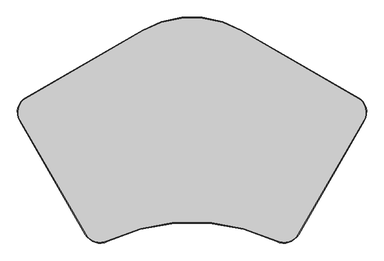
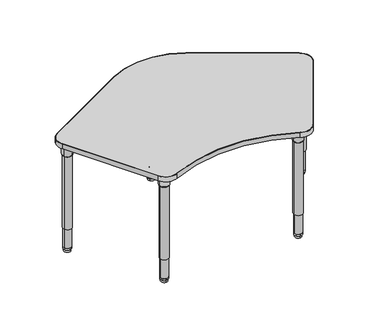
"""IFC4 building model written with IfcOpenShell, lengths in millimetres: furniture geometry, ERG-Mingle-Table-Boomerang : MGLBMR."""

from ifc_helpers import new_model, si_unit, point, frame, frame_2d, origin, place, context, project, spatial, polyline, circle_curve, trimmed, segment, composite_curve, outline, extrude, source, transform, mapped, element, save
from ifc_brep_helpers import plane_surface, cylinder_surface, revolved_surface, advanced_brep


def furniture_91c81256(model_context):
    return source(origin(), model_context, "Body", "SolidModel", [
        advanced_brep(
        [(-398.5896842, -528.6375, 650.5933069), (-428.625, -528.6375, 650.5933069), (-458.6603158, -528.6375, 650.5933069), (-396.481117, -528.6375, 654.3580481), (-460.768883, -528.6375, 654.3580481), (-395.5456351, -528.6375, 707.7631458), (-461.7043649, -528.6375, 707.7631458), (-392.096083, -528.6375, 714.1198315), (-465.153917, -528.6375, 714.1198315), (-392.096083, -528.6375, 726.8198315), (-465.153917, -528.6375, 726.8198315), (-428.625, -528.6375, 726.8198315)],
        [
            (0, 1),
            (1, 2),
            (2, 0, circle_curve(frame((-428.625, -528.6375, 650.5933069), z_axis=(0.0, 0.0, -1.0), x_axis=(-1.0, 0.0, 0.0)), 30.0353158)),
            (0, 2, circle_curve(frame((-428.625, -528.6375, 650.5933069), z_axis=(0.0, 0.0, -1.0), x_axis=(-1.0, 0.0, 0.0)), 30.0353158)),
            (3, 0),
            (2, 4),
            (4, 3, circle_curve(frame((-428.625, -528.6375, 654.3580481), z_axis=(0.0, 0.0, -1.0), x_axis=(-1.0, 0.0, 0.0)), 32.143883)),
            (3, 4, circle_curve(frame((-428.625, -528.6375, 654.3580481), z_axis=(0.0, 0.0, -1.0), x_axis=(-1.0, 0.0, 0.0)), 32.143883)),
            (5, 3),
            (4, 6),
            (6, 5, circle_curve(frame((-428.625, -528.6375, 707.7631458), z_axis=(0.0, 0.0, -1.0), x_axis=(-1.0, 0.0, 0.0)), 33.0793649)),
            (5, 6, circle_curve(frame((-428.625, -528.6375, 707.7631458), z_axis=(0.0, 0.0, -1.0), x_axis=(-1.0, 0.0, 0.0)), 33.0793649)),
            (7, 5),
            (6, 8),
            (8, 7, circle_curve(frame((-428.625, -528.6375, 714.1198315), z_axis=(0.0, 0.0, -1.0), x_axis=(-1.0, 0.0, 0.0)), 36.528917)),
            (7, 8, circle_curve(frame((-428.625, -528.6375, 714.1198315), z_axis=(0.0, 0.0, -1.0), x_axis=(-1.0, 0.0, 0.0)), 36.528917)),
            (9, 7),
            (8, 10),
            (10, 9, circle_curve(frame((-428.625, -528.6375, 726.8198315), z_axis=(0.0, 0.0, -1.0), x_axis=(-1.0, 0.0, 0.0)), 36.528917)),
            (9, 10, circle_curve(frame((-428.625, -528.6375, 726.8198315), z_axis=(0.0, 0.0, -1.0), x_axis=(-1.0, 0.0, 0.0)), 36.528917)),
            (11, 9),
            (10, 11),
        ],
        [
            plane_surface(frame((-428.625, -528.6375, 650.5933069), z_axis=(0.0, 0.0, -1.0), x_axis=(-1.0, 0.0, 0.0))),
            revolved_surface(polyline([(-458.6603158, -528.6375, 650.5933069), (-460.768883, -528.6375, 654.3580481)]), (-428.625, -528.6375, 726.8198315), (0.0, 0.0, 1.0)),
            revolved_surface(polyline([(-460.768883, -528.6375, 654.3580481), (-461.7043649, -528.6375, 707.7631458)]), (-428.625, -528.6375, 726.8198315), (0.0, 0.0, 1.0)),
            revolved_surface(polyline([(-461.7043649, -528.6375, 707.7631458), (-465.153917, -528.6375, 714.1198315)]), (-428.625, -528.6375, 726.8198315), (0.0, 0.0, 1.0)),
            cylinder_surface(frame((-428.625, -528.6375, 726.8198315), z_axis=(0.0, 0.0, 1.0), x_axis=(-1.0, 0.0, 0.0)), 36.528917),
            plane_surface(frame((-428.625, -528.6375, 726.8198315), z_axis=(0.0, 0.0, 1.0), x_axis=(-1.0, 0.0, 0.0))),
        ],
        [
            (0, [[1, 2, 3]]),
            (0, [[-2, -1, 4]]),
            (1, [[5, -3, 6, 7]]),
            (1, [[-6, -4, -5, 8]]),
            (2, [[9, -7, 10, 11]]),
            (2, [[-10, -8, -9, 12]]),
            (3, [[13, -11, 14, 15]]),
            (3, [[-14, -12, -13, 16]]),
            (4, [[17, -15, 18, 19]]),
            (4, [[-18, -16, -17, 20]]),
            (5, [[21, -19, 22]]),
            (5, [[-22, -20, -21]]),
        ],
    ),
        extrude(outline(composite_curve([segment(trimmed(circle_curve(frame_2d((-461.798768, -446.0598426)), 12.7), [point((-474.498768, -446.0598426))], [point((-460.5361525, -433.4227622))], False, "CARTESIAN"), True, "CONTINUOUS"), segment(trimmed(circle_curve(frame_2d((-474.7736077, -575.9205117)), 143.2072406), [point((-460.5361525, -433.4227622))], [point((-332.2741923, -561.6997394))], False, "CARTESIAN"), True, "CONTINUOUS"), segment(trimmed(circle_curve(frame_2d((-344.9114205, -562.9608754)), 12.7), [point((-332.2741923, -561.6997394))], [point((-344.9114205, -575.6608754))], False, "CARTESIAN"), True, "CONTINUOUS"), segment(polyline([(-344.9114205, -575.6608754), (-458.623768, -575.6608754)]), True, "CONTINUOUS"), segment(trimmed(circle_curve(frame_2d((-458.623768, -559.7858754)), 15.875), [point((-458.623768, -575.6608754))], [point((-474.498768, -559.7858754))], False, "CARTESIAN"), True, "CONTINUOUS"), segment(polyline([(-474.498768, -559.7858754), (-474.498768, -446.0598426)]), True, "CONTINUOUS")], self_intersect=False)), frame((0.0, 0.0, 726.8198315), z_axis=(0.0, 0.0, 1.0), x_axis=(1.0, 0.0, 0.0)), (0.0, 0.0, 1.0), 3.4301685),
        extrude(outline(composite_curve([segment(trimmed(circle_curve(frame_2d((-428.625, -528.6375)), 28.575), [point((-457.2, -528.6375))], [point((-400.05, -528.6375))], False, "CARTESIAN"), True, "CONTINUOUS"), segment(trimmed(circle_curve(frame_2d((-428.625, -528.6375)), 28.575), [point((-400.05, -528.6375))], [point((-457.2, -528.6375))], False, "CARTESIAN"), True, "CONTINUOUS")], self_intersect=False)), frame((0.0, 0.0, 158.3876979), z_axis=(0.0, 0.0, 1.0), x_axis=(1.0, 0.0, 0.0)), (0.0, 0.0, 1.0), 495.4089866),
        extrude(outline(composite_curve([segment(trimmed(circle_curve(frame_2d((-428.625, -528.6375)), 25.4), [point((-454.025, -528.6375))], [point((-403.225, -528.6375))], False, "CARTESIAN"), True, "CONTINUOUS"), segment(trimmed(circle_curve(frame_2d((-428.625, -528.6375)), 25.4), [point((-403.225, -528.6375))], [point((-454.025, -528.6375))], False, "CARTESIAN"), True, "CONTINUOUS")], self_intersect=False)), frame((0.0, 0.0, 28.9580435), z_axis=(0.0, 0.0, 1.0), x_axis=(1.0, 0.0, 0.0)), (0.0, 0.0, 1.0), 176.7049119),
        advanced_brep(
        [(-428.625, -503.4024896, 28.9580185), (-428.625, -528.6375, 28.9580185), (-428.625, -553.8725104, 28.9580185), (-428.625, -503.538261, 16.3032949), (-428.625, -553.736739, 16.3032949), (-428.625, -505.0535619, 14.7291007), (-428.625, -552.2214381, 14.7291007), (-428.625, -507.4966422, 14.7291007), (-428.625, -549.7783578, 14.7291007), (-428.625, -507.6896336, 0.0), (-428.625, -549.5853664, 0.0), (-428.625, -528.6375, 0.0)],
        [
            (0, 1),
            (1, 2),
            (2, 0, circle_curve(frame((-428.625, -528.6375, 28.9580185), z_axis=(0.0, 0.0, 1.0), x_axis=(0.0, -1.0, 0.0)), 25.2350104)),
            (0, 2, circle_curve(frame((-428.625, -528.6375, 28.9580185), z_axis=(0.0, 0.0, 1.0), x_axis=(0.0, -1.0, 0.0)), 25.2350104)),
            (3, 0),
            (2, 4),
            (4, 3, circle_curve(frame((-428.625, -528.6375, 16.3032949), z_axis=(0.0, 0.0, 1.0), x_axis=(0.0, -1.0, 0.0)), 25.099239)),
            (3, 4, circle_curve(frame((-428.625, -528.6375, 16.3032949), z_axis=(0.0, 0.0, 1.0), x_axis=(0.0, -1.0, 0.0)), 25.099239)),
            (5, 3),
            (4, 6),
            (6, 5, circle_curve(frame((-428.625, -528.6375, 14.7291007), z_axis=(0.0, 0.0, 1.0), x_axis=(0.0, -1.0, 0.0)), 23.5839381)),
            (5, 6, circle_curve(frame((-428.625, -528.6375, 14.7291007), z_axis=(0.0, 0.0, 1.0), x_axis=(0.0, -1.0, 0.0)), 23.5839381)),
            (7, 5),
            (6, 8),
            (8, 7, circle_curve(frame((-428.625, -528.6375, 14.7291007), z_axis=(0.0, 0.0, 1.0), x_axis=(0.0, -1.0, 0.0)), 21.1408578)),
            (7, 8, circle_curve(frame((-428.625, -528.6375, 14.7291007), z_axis=(0.0, 0.0, 1.0), x_axis=(0.0, -1.0, 0.0)), 21.1408578)),
            (9, 7),
            (8, 10),
            (10, 9, circle_curve(frame((-428.625, -528.6375, 0.0), z_axis=(0.0, 0.0, 1.0), x_axis=(0.0, -1.0, 0.0)), 20.9478664)),
            (9, 10, circle_curve(frame((-428.625, -528.6375, 0.0), z_axis=(0.0, 0.0, 1.0), x_axis=(0.0, -1.0, 0.0)), 20.9478664)),
            (11, 9),
            (10, 11),
        ],
        [
            plane_surface(frame((-428.625, -528.6375, 28.9580185), z_axis=(0.0, 0.0, 1.0), x_axis=(0.0, -1.0, 0.0))),
            revolved_surface(polyline([(-428.625, -553.8725104, 28.9580185), (-428.625, -553.736739, 16.3032949)]), (-428.625, -528.6375, 0.0), (0.0, 0.0, -1.0)),
            revolved_surface(polyline([(-428.625, -553.736739, 16.3032949), (-428.625, -552.2214381, 14.7291007)]), (-428.625, -528.6375, 0.0), (0.0, 0.0, -1.0)),
            plane_surface(frame((-428.625, -528.6375, 14.7291007), z_axis=(0.0, 0.0, -1.0), x_axis=(0.0, -1.0, 0.0))),
            revolved_surface(polyline([(-428.625, -549.7783578, 14.7291007), (-428.625, -549.5853664, 0.0)]), (-428.625, -528.6375, 0.0), (0.0, 0.0, -1.0)),
            plane_surface(frame((-428.625, -528.6375, 0.0), z_axis=(0.0, 0.0, -1.0), x_axis=(0.0, -1.0, 0.0))),
        ],
        [
            (0, [[1, 2, 3]]),
            (0, [[-2, -1, 4]]),
            (1, [[5, -3, 6, 7]]),
            (1, [[-6, -4, -5, 8]]),
            (2, [[9, -7, 10, 11]]),
            (2, [[-10, -8, -9, 12]]),
            (3, [[13, -11, 14, 15]]),
            (3, [[-14, -12, -13, 16]]),
            (4, [[17, -15, 18, 19]]),
            (4, [[-18, -16, -17, 20]]),
            (5, [[21, -19, 22]]),
            (5, [[-22, -20, -21]]),
        ],
    ),
        advanced_brep(
        [(721.4408227, 8.0144328, 650.5933069), (747.4521692, -7.0032251, 650.5933069), (773.4635157, -22.020883, 650.5933069), (719.6147499, 9.0687164, 654.3580481), (775.2895885, -23.0751666, 654.3580481), (718.8045989, 9.5364574, 707.7631458), (776.0997395, -23.5429075, 707.7631458), (715.8171991, 11.2612334, 714.1198315), (779.0871393, -25.2676836, 714.1198315), (715.8171991, 11.2612334, 726.8198315), (779.0871393, -25.2676836, 726.8198315), (747.4521692, -7.0032251, 726.8198315)],
        [
            (0, 1),
            (1, 2),
            (2, 0, circle_curve(frame((747.4521692, -7.0032251, 650.5933069), z_axis=(0.0, 0.0, -1.0), x_axis=(0.8660254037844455, -0.4999999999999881, 0.0)), 30.0353158)),
            (0, 2, circle_curve(frame((747.4521692, -7.0032251, 650.5933069), z_axis=(0.0, 0.0, -1.0), x_axis=(0.8660254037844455, -0.4999999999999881, 0.0)), 30.0353158)),
            (3, 0),
            (2, 4),
            (4, 3, circle_curve(frame((747.4521692, -7.0032251, 654.3580481), z_axis=(0.0, 0.0, -1.0), x_axis=(0.8660254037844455, -0.4999999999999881, 0.0)), 32.143883)),
            (3, 4, circle_curve(frame((747.4521692, -7.0032251, 654.3580481), z_axis=(0.0, 0.0, -1.0), x_axis=(0.8660254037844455, -0.4999999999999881, 0.0)), 32.143883)),
            (5, 3),
            (4, 6),
            (6, 5, circle_curve(frame((747.4521692, -7.0032251, 707.7631458), z_axis=(0.0, 0.0, -1.0), x_axis=(0.8660254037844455, -0.4999999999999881, 0.0)), 33.0793649)),
            (5, 6, circle_curve(frame((747.4521692, -7.0032251, 707.7631458), z_axis=(0.0, 0.0, -1.0), x_axis=(0.8660254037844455, -0.4999999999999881, 0.0)), 33.0793649)),
            (7, 5),
            (6, 8),
            (8, 7, circle_curve(frame((747.4521692, -7.0032251, 714.1198315), z_axis=(0.0, 0.0, -1.0), x_axis=(0.8660254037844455, -0.4999999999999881, 0.0)), 36.528917)),
            (7, 8, circle_curve(frame((747.4521692, -7.0032251, 714.1198315), z_axis=(0.0, 0.0, -1.0), x_axis=(0.8660254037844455, -0.4999999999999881, 0.0)), 36.528917)),
            (9, 7),
            (8, 10),
            (10, 9, circle_curve(frame((747.4521692, -7.0032251, 726.8198315), z_axis=(0.0, 0.0, -1.0), x_axis=(0.8660254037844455, -0.4999999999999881, 0.0)), 36.528917)),
            (9, 10, circle_curve(frame((747.4521692, -7.0032251, 726.8198315), z_axis=(0.0, 0.0, -1.0), x_axis=(0.8660254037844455, -0.4999999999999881, 0.0)), 36.528917)),
            (11, 9),
            (10, 11),
        ],
        [
            plane_surface(frame((747.4521692, -7.0032251, 650.5933069), z_axis=(0.0, 0.0, -1.0), x_axis=(0.8660254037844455, -0.4999999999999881, 0.0))),
            revolved_surface(polyline([(773.4635157, -22.020883, 650.5933069), (775.2895885, -23.0751666, 654.3580481)]), (747.4521692, -7.0032251, 726.8198315), (0.0, 0.0, 1.0)),
            revolved_surface(polyline([(775.2895885, -23.0751666, 654.3580481), (776.0997395, -23.5429075, 707.7631458)]), (747.4521692, -7.0032251, 726.8198315), (0.0, 0.0, 1.0)),
            revolved_surface(polyline([(776.0997395, -23.5429075, 707.7631458), (779.0871393, -25.2676836, 714.1198315)]), (747.4521692, -7.0032251, 726.8198315), (0.0, 0.0, 1.0)),
            cylinder_surface(frame((747.4521692, -7.0032251, 726.8198315), z_axis=(0.0, 0.0, 1.0), x_axis=(0.8660254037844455, -0.4999999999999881, 0.0)), 36.528917),
            plane_surface(frame((747.4521692, -7.0032251, 726.8198315), z_axis=(0.0, 0.0, 1.0), x_axis=(0.8660254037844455, -0.4999999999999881, 0.0))),
        ],
        [
            (0, [[1, 2, 3]]),
            (0, [[-2, -1, 4]]),
            (1, [[5, -3, 6, 7]]),
            (1, [[-6, -4, -5, 8]]),
            (2, [[9, -7, 10, 11]]),
            (2, [[-10, -8, -9, 12]]),
            (3, [[13, -11, 14, 15]]),
            (3, [[-14, -12, -13, 16]]),
            (4, [[17, -15, 18, 19]]),
            (4, [[-18, -16, -17, 20]]),
            (5, [[21, -19, 22]]),
            (5, [[-22, -20, -21]]),
        ],
    ),
        extrude(outline(composite_curve([segment(trimmed(circle_curve(frame_2d((734.8926663, -95.1044582)), 12.7), [point((745.891189, -101.4544582))], [point((727.480669, -105.4171831))], False, "CARTESIAN"), True, "CONTINUOUS"), segment(trimmed(circle_curve(frame_2d((811.0595417, 10.8707604)), 143.2072406), [point((727.480669, -105.4171831))], [point((680.5410418, 69.804918))], False, "CARTESIAN"), True, "CONTINUOUS"), segment(trimmed(circle_curve(frame_2d((692.1157704, 64.5784797)), 12.7), [point((680.5410418, 69.804918))], [point((698.4657704, 75.5770024))], False, "CARTESIAN"), True, "CONTINUOUS"), segment(polyline([(698.4657704, 75.5770024), (796.9435521, 18.7208286)]), True, "CONTINUOUS"), segment(trimmed(circle_curve(frame_2d((789.0060521, 4.9726753)), 15.875), [point((796.9435521, 18.7208286))], [point((802.7542054, -2.9648247))], False, "CARTESIAN"), True, "CONTINUOUS"), segment(polyline([(802.7542054, -2.9648247), (745.891189, -101.4544582)]), True, "CONTINUOUS")], self_intersect=False)), frame((0.0, 0.0, 726.8198315), z_axis=(0.0, 0.0, 1.0), x_axis=(1.0, 0.0, 0.0)), (0.0, 0.0, 1.0), 3.4301685),
        extrude(outline(composite_curve([segment(trimmed(circle_curve(frame_2d((747.4521692, -7.0032251)), 28.575), [point((772.1988451, -21.2907251))], [point((722.7054933, 7.2842749))], False, "CARTESIAN"), True, "CONTINUOUS"), segment(trimmed(circle_curve(frame_2d((747.4521692, -7.0032251)), 28.575), [point((722.7054933, 7.2842749))], [point((772.1988451, -21.2907251))], False, "CARTESIAN"), True, "CONTINUOUS")], self_intersect=False)), frame((0.0, 0.0, 158.3876979), z_axis=(0.0, 0.0, 1.0), x_axis=(1.0, 0.0, 0.0)), (0.0, 0.0, 1.0), 495.4089866),
        extrude(outline(composite_curve([segment(trimmed(circle_curve(frame_2d((747.4521692, -7.0032251)), 25.4), [point((769.4492145, -19.7032251))], [point((725.455124, 5.6967749))], False, "CARTESIAN"), True, "CONTINUOUS"), segment(trimmed(circle_curve(frame_2d((747.4521692, -7.0032251)), 25.4), [point((725.455124, 5.6967749))], [point((769.4492145, -19.7032251))], False, "CARTESIAN"), True, "CONTINUOUS")], self_intersect=False)), frame((0.0, 0.0, 28.9580435), z_axis=(0.0, 0.0, 1.0), x_axis=(1.0, 0.0, 0.0)), (0.0, 0.0, 1.0), 176.7049119),
        advanced_brep(
        [(734.834664, -28.8573851, 28.9580185), (747.4521692, -7.0032251, 28.9580185), (760.0696744, 14.850935, 28.9580185), (734.9025497, -28.7398037, 16.3032949), (760.0017887, 14.7333535, 16.3032949), (735.6602001, -27.4275146, 14.7291007), (759.2441383, 13.4210645, 14.7291007), (736.8817403, -25.311745, 14.7291007), (758.0225981, 11.3052948, 14.7291007), (736.978236, -25.1446095, 0.0), (757.9261024, 11.1381593, 0.0), (747.4521692, -7.0032251, 0.0)],
        [
            (0, 1),
            (1, 2),
            (2, 0, circle_curve(frame((747.4521692, -7.0032251, 28.9580185), z_axis=(0.0, 0.0, 1.0), x_axis=(0.49999999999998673, 0.8660254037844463, 0.0)), 25.2350104)),
            (0, 2, circle_curve(frame((747.4521692, -7.0032251, 28.9580185), z_axis=(0.0, 0.0, 1.0), x_axis=(0.49999999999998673, 0.8660254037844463, 0.0)), 25.2350104)),
            (3, 0),
            (2, 4),
            (4, 3, circle_curve(frame((747.4521692, -7.0032251, 16.3032949), z_axis=(0.0, 0.0, 1.0), x_axis=(0.49999999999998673, 0.8660254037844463, 0.0)), 25.099239)),
            (3, 4, circle_curve(frame((747.4521692, -7.0032251, 16.3032949), z_axis=(0.0, 0.0, 1.0), x_axis=(0.49999999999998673, 0.8660254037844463, 0.0)), 25.099239)),
            (5, 3),
            (4, 6),
            (6, 5, circle_curve(frame((747.4521692, -7.0032251, 14.7291007), z_axis=(0.0, 0.0, 1.0), x_axis=(0.49999999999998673, 0.8660254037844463, 0.0)), 23.5839381)),
            (5, 6, circle_curve(frame((747.4521692, -7.0032251, 14.7291007), z_axis=(0.0, 0.0, 1.0), x_axis=(0.49999999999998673, 0.8660254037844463, 0.0)), 23.5839381)),
            (7, 5),
            (6, 8),
            (8, 7, circle_curve(frame((747.4521692, -7.0032251, 14.7291007), z_axis=(0.0, 0.0, 1.0), x_axis=(0.49999999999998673, 0.8660254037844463, 0.0)), 21.1408578)),
            (7, 8, circle_curve(frame((747.4521692, -7.0032251, 14.7291007), z_axis=(0.0, 0.0, 1.0), x_axis=(0.49999999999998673, 0.8660254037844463, 0.0)), 21.1408578)),
            (9, 7),
            (8, 10),
            (10, 9, circle_curve(frame((747.4521692, -7.0032251, 0.0), z_axis=(0.0, 0.0, 1.0), x_axis=(0.49999999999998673, 0.8660254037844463, 0.0)), 20.9478664)),
            (9, 10, circle_curve(frame((747.4521692, -7.0032251, 0.0), z_axis=(0.0, 0.0, 1.0), x_axis=(0.49999999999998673, 0.8660254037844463, 0.0)), 20.9478664)),
            (11, 9),
            (10, 11),
        ],
        [
            plane_surface(frame((747.4521692, -7.0032251, 28.9580185), z_axis=(0.0, 0.0, 1.0), x_axis=(0.49999999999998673, 0.8660254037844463, 0.0))),
            revolved_surface(polyline([(760.0696744, 14.850935, 28.9580185), (760.0017887, 14.7333535, 16.3032949)]), (747.4521692, -7.0032251, 0.0), (0.0, 0.0, -1.0)),
            revolved_surface(polyline([(760.0017887, 14.7333535, 16.3032949), (759.2441383, 13.4210645, 14.7291007)]), (747.4521692, -7.0032251, 0.0), (0.0, 0.0, -1.0)),
            plane_surface(frame((747.4521692, -7.0032251, 14.7291007), z_axis=(0.0, 0.0, -1.0), x_axis=(0.49999999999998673, 0.8660254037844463, 0.0))),
            revolved_surface(polyline([(758.0225981, 11.3052948, 14.7291007), (757.9261024, 11.1381593, 0.0)]), (747.4521692, -7.0032251, 0.0), (0.0, 0.0, -1.0)),
            plane_surface(frame((747.4521692, -7.0032251, 0.0), z_axis=(0.0, 0.0, -1.0), x_axis=(0.49999999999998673, 0.8660254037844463, 0.0))),
        ],
        [
            (0, [[1, 2, 3]]),
            (0, [[-2, -1, 4]]),
            (1, [[5, -3, 6, 7]]),
            (1, [[-6, -4, -5, 8]]),
            (2, [[9, -7, 10, 11]]),
            (2, [[-10, -8, -9, 12]]),
            (3, [[13, -11, 14, 15]]),
            (3, [[-14, -12, -13, 16]]),
            (4, [[17, -15, 18, 19]]),
            (4, [[-18, -16, -17, 20]]),
            (5, [[21, -19, 22]]),
            (5, [[-22, -20, -21]]),
        ],
    ),
        advanced_brep(
        [(21.2381755, 335.5167068, 650.5933069), (-21.2381755, 377.9930578, 650.5933069), (0.0, 356.7548823, 650.5933069), (22.7291577, 334.0257246, 654.3580481), (-22.7291577, 379.4840399, 654.3580481), (23.3906432, 333.3642391, 707.7631458), (-23.3906432, 380.1455255, 707.7631458), (25.8298449, 330.9250374, 714.1198315), (-25.8298449, 382.5847272, 714.1198315), (25.8298449, 330.9250374, 726.8198315), (-25.8298449, 382.5847272, 726.8198315), (0.0, 356.7548823, 726.8198315)],
        [
            (0, 1, circle_curve(frame((0.0, 356.7548823, 650.5933069), z_axis=(0.0, 0.0, -1.0), x_axis=(-0.7071067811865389, 0.7071067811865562, 0.0)), 30.0353158)),
            (1, 2),
            (2, 0),
            (1, 0, circle_curve(frame((0.0, 356.7548823, 650.5933069), z_axis=(0.0, 0.0, -1.0), x_axis=(-0.7071067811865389, 0.7071067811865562, 0.0)), 30.0353158)),
            (3, 4, circle_curve(frame((0.0, 356.7548823, 654.3580481), z_axis=(0.0, 0.0, -1.0), x_axis=(-0.7071067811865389, 0.7071067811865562, 0.0)), 32.143883)),
            (4, 1),
            (0, 3),
            (4, 3, circle_curve(frame((0.0, 356.7548823, 654.3580481), z_axis=(0.0, 0.0, -1.0), x_axis=(-0.7071067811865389, 0.7071067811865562, 0.0)), 32.143883)),
            (5, 6, circle_curve(frame((0.0, 356.7548823, 707.7631458), z_axis=(0.0, 0.0, -1.0), x_axis=(-0.7071067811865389, 0.7071067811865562, 0.0)), 33.0793649)),
            (6, 4),
            (3, 5),
            (6, 5, circle_curve(frame((0.0, 356.7548823, 707.7631458), z_axis=(0.0, 0.0, -1.0), x_axis=(-0.7071067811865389, 0.7071067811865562, 0.0)), 33.0793649)),
            (7, 8, circle_curve(frame((0.0, 356.7548823, 714.1198315), z_axis=(0.0, 0.0, -1.0), x_axis=(-0.7071067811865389, 0.7071067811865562, 0.0)), 36.528917)),
            (8, 6),
            (5, 7),
            (8, 7, circle_curve(frame((0.0, 356.7548823, 714.1198315), z_axis=(0.0, 0.0, -1.0), x_axis=(-0.7071067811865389, 0.7071067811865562, 0.0)), 36.528917)),
            (9, 10, circle_curve(frame((0.0, 356.7548823, 726.8198315), z_axis=(0.0, 0.0, -1.0), x_axis=(-0.7071067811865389, 0.7071067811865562, 0.0)), 36.528917)),
            (10, 8),
            (7, 9),
            (10, 9, circle_curve(frame((0.0, 356.7548823, 726.8198315), z_axis=(0.0, 0.0, -1.0), x_axis=(-0.7071067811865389, 0.7071067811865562, 0.0)), 36.528917)),
            (11, 10),
            (9, 11),
        ],
        [
            plane_surface(frame((0.0, 356.7548823, 650.5933069), z_axis=(0.0, 0.0, -1.0000000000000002), x_axis=(-0.7071067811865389, 0.7071067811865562, 0.0))),
            revolved_surface(polyline([(-21.2381755, 377.9930578, 650.5933069), (-22.7291577, 379.4840399, 654.3580481)]), (0.0, 356.7548823, 726.8198315), (0.0, 0.0, 1.0)),
            revolved_surface(polyline([(-22.7291577, 379.4840399, 654.3580481), (-23.3906432, 380.1455255, 707.7631458)]), (0.0, 356.7548823, 726.8198315), (0.0, 0.0, 1.0)),
            revolved_surface(polyline([(-23.3906432, 380.1455255, 707.7631458), (-25.8298449, 382.5847272, 714.1198315)]), (0.0, 356.7548823, 726.8198315), (0.0, 0.0, 1.0)),
            cylinder_surface(frame((0.0, 356.7548823, 726.8198315), z_axis=(0.0, 0.0, 1.0), x_axis=(-0.7071067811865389, 0.7071067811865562, 0.0)), 36.528917),
            plane_surface(frame((0.0, 356.7548823, 726.8198315), z_axis=(0.0, 0.0, 1.0000000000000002), x_axis=(-0.7071067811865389, 0.7071067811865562, 0.0))),
        ],
        [
            (0, [[1, 2, 3]]),
            (0, [[4, -3, -2]]),
            (1, [[5, 6, -1, 7]]),
            (1, [[8, -7, -4, -6]]),
            (2, [[9, 10, -5, 11]]),
            (2, [[12, -11, -8, -10]]),
            (3, [[13, 14, -9, 15]]),
            (3, [[16, -15, -12, -14]]),
            (4, [[17, 18, -13, 19]]),
            (4, [[20, -19, -16, -18]]),
            (5, [[21, -17, 22]]),
            (5, [[-22, -20, -21]]),
        ],
    ),
        extrude(outline(composite_curve([segment(polyline([(-90.828874, 330.8013132), (-10.4124249, 411.2177622)]), True, "CONTINUOUS"), segment(trimmed(circle_curve(frame_2d((0.8128952, 399.992442)), 15.875), [point((-10.4124249, 411.2177622))], [point((12.0382154, 411.2177622))], False, "CARTESIAN"), True, "CONTINUOUS"), segment(polyline([(12.0382154, 411.2177622), (92.4449874, 330.8109902)]), True, "CONTINUOUS"), segment(trimmed(circle_curve(frame_2d((83.4647313, 321.8307341)), 12.7), [point((92.4449874, 330.8109902))], [point((91.5088432, 312.0031065))], False, "CARTESIAN"), True, "CONTINUOUS"), segment(trimmed(circle_curve(frame_2d((0.8021447, 422.8210139)), 143.2072406), [point((91.5088432, 312.0031065))], [point((-89.8915791, 311.9924878))], False, "CARTESIAN"), True, "CONTINUOUS"), segment(trimmed(circle_curve(frame_2d((-81.8486178, 321.8210571)), 12.7), [point((-89.8915791, 311.9924878))], [point((-90.828874, 330.8013132))], False, "CARTESIAN"), True, "CONTINUOUS")], self_intersect=False)), frame((0.0, 0.0, 726.8198315), z_axis=(0.0, 0.0, 1.0), x_axis=(1.0, 0.0, 0.0)), (0.0, 0.0, 1.0), 3.4301685),
        extrude(outline(composite_curve([segment(trimmed(circle_curve(frame_2d((0.0, 356.7548823)), 28.575), [point((-20.2055763, 376.9604585))], [point((20.2055763, 336.549306))], False, "CARTESIAN"), True, "CONTINUOUS"), segment(trimmed(circle_curve(frame_2d((0.0, 356.7548823)), 28.575), [point((20.2055763, 336.549306))], [point((-20.2055763, 376.9604585))], False, "CARTESIAN"), True, "CONTINUOUS")], self_intersect=False)), frame((0.0, 0.0, 158.3876979), z_axis=(0.0, 0.0, 1.0), x_axis=(1.0, 0.0, 0.0)), (0.0, 0.0, 1.0), 495.4089866),
        extrude(outline(composite_curve([segment(trimmed(circle_curve(frame_2d((0.0, 356.7548823)), 25.4), [point((-17.9605122, 374.7153945))], [point((17.9605122, 338.79437))], False, "CARTESIAN"), True, "CONTINUOUS"), segment(trimmed(circle_curve(frame_2d((0.0, 356.7548823)), 25.4), [point((17.9605122, 338.79437))], [point((-17.9605122, 374.7153945))], False, "CARTESIAN"), True, "CONTINUOUS")], self_intersect=False)), frame((0.0, 0.0, 28.9580435), z_axis=(0.0, 0.0, 1.0), x_axis=(1.0, 0.0, 0.0)), (0.0, 0.0, 1.0), 176.7049119),
        advanced_brep(
        [(-17.843847, 338.9110353, 28.9580185), (17.843847, 374.5987292, 28.9580185), (0.0, 356.7548823, 28.9580185), (-17.7478421, 339.0070402, 16.3032949), (17.7478421, 374.5027244, 16.3032949), (-16.6763626, 340.0785197, 14.7291007), (16.6763626, 373.4312449, 14.7291007), (-14.9488439, 341.8060384, 14.7291007), (14.9488439, 371.7037262, 14.7291007), (-14.8123784, 341.9425039, 0.0), (14.8123784, 371.5672606, 0.0), (0.0, 356.7548823, 0.0)],
        [
            (0, 1, circle_curve(frame((0.0, 356.7548823, 28.9580185), z_axis=(0.0, 0.0, 1.0), x_axis=(0.7071067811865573, 0.7071067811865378, 0.0)), 25.2350104)),
            (1, 2),
            (2, 0),
            (1, 0, circle_curve(frame((0.0, 356.7548823, 28.9580185), z_axis=(0.0, 0.0, 1.0), x_axis=(0.7071067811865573, 0.7071067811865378, 0.0)), 25.2350104)),
            (3, 4, circle_curve(frame((0.0, 356.7548823, 16.3032949), z_axis=(0.0, 0.0, 1.0), x_axis=(0.7071067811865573, 0.7071067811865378, 0.0)), 25.099239)),
            (4, 1),
            (0, 3),
            (4, 3, circle_curve(frame((0.0, 356.7548823, 16.3032949), z_axis=(0.0, 0.0, 1.0), x_axis=(0.7071067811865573, 0.7071067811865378, 0.0)), 25.099239)),
            (5, 6, circle_curve(frame((0.0, 356.7548823, 14.7291007), z_axis=(0.0, 0.0, 1.0), x_axis=(0.7071067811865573, 0.7071067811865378, 0.0)), 23.5839381)),
            (6, 4),
            (3, 5),
            (6, 5, circle_curve(frame((0.0, 356.7548823, 14.7291007), z_axis=(0.0, 0.0, 1.0), x_axis=(0.7071067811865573, 0.7071067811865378, 0.0)), 23.5839381)),
            (7, 8, circle_curve(frame((0.0, 356.7548823, 14.7291007), z_axis=(0.0, 0.0, 1.0), x_axis=(0.7071067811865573, 0.7071067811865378, 0.0)), 21.1408578)),
            (8, 6),
            (5, 7),
            (8, 7, circle_curve(frame((0.0, 356.7548823, 14.7291007), z_axis=(0.0, 0.0, 1.0), x_axis=(0.7071067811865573, 0.7071067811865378, 0.0)), 21.1408578)),
            (9, 10, circle_curve(frame((0.0, 356.7548823, 0.0), z_axis=(0.0, 0.0, 1.0), x_axis=(0.7071067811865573, 0.7071067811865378, 0.0)), 20.9478664)),
            (10, 8),
            (7, 9),
            (10, 9, circle_curve(frame((0.0, 356.7548823, 0.0), z_axis=(0.0, 0.0, 1.0), x_axis=(0.7071067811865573, 0.7071067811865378, 0.0)), 20.9478664)),
            (11, 10),
            (9, 11),
        ],
        [
            plane_surface(frame((0.0, 356.7548823, 28.9580185), z_axis=(0.0, 0.0, 1.0), x_axis=(0.7071067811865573, 0.7071067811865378, 0.0))),
            revolved_surface(polyline([(17.843847, 374.5987292, 28.9580185), (17.7478421, 374.5027244, 16.3032949)]), (0.0, 356.7548823, 0.0), (0.0, 0.0, -1.0)),
            revolved_surface(polyline([(17.7478421, 374.5027244, 16.3032949), (16.6763626, 373.4312449, 14.7291007)]), (0.0, 356.7548823, 0.0), (0.0, 0.0, -1.0)),
            plane_surface(frame((0.0, 356.7548823, 14.7291007), z_axis=(0.0, 0.0, -1.0), x_axis=(0.7071067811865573, 0.7071067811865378, 0.0))),
            revolved_surface(polyline([(14.9488439, 371.7037262, 14.7291007), (14.8123784, 371.5672606, 0.0)]), (0.0, 356.7548823, 0.0), (0.0, 0.0, -1.0)),
            plane_surface(frame((0.0, 356.7548823, 0.0), z_axis=(0.0, 0.0, -1.0), x_axis=(0.7071067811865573, 0.7071067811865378, 0.0))),
        ],
        [
            (0, [[1, 2, 3]]),
            (0, [[4, -3, -2]]),
            (1, [[5, 6, -1, 7]]),
            (1, [[8, -7, -4, -6]]),
            (2, [[9, 10, -5, 11]]),
            (2, [[12, -11, -8, -10]]),
            (3, [[13, 14, -9, 15]]),
            (3, [[16, -15, -12, -14]]),
            (4, [[17, 18, -13, 19]]),
            (4, [[20, -19, -16, -18]]),
            (5, [[21, -17, 22]]),
            (5, [[-22, -20, -21]]),
        ],
    ),
        advanced_brep(
        [(398.5896842, -528.6375, 650.5933069), (458.6603158, -528.6375, 650.5933069), (428.625, -528.6375, 650.5933069), (396.481117, -528.6375, 654.3580481), (460.768883, -528.6375, 654.3580481), (395.5456351, -528.6375, 707.7631458), (461.7043649, -528.6375, 707.7631458), (392.096083, -528.6375, 714.1198315), (465.153917, -528.6375, 714.1198315), (392.096083, -528.6375, 726.8198315), (465.153917, -528.6375, 726.8198315), (428.625, -528.6375, 726.8198315)],
        [
            (0, 1, circle_curve(frame((428.625, -528.6375, 650.5933069), z_axis=(0.0, 0.0, -1.0), x_axis=(1.0, 0.0, 0.0)), 30.0353158)),
            (1, 2),
            (2, 0),
            (1, 0, circle_curve(frame((428.625, -528.6375, 650.5933069), z_axis=(0.0, 0.0, -1.0), x_axis=(1.0, 0.0, 0.0)), 30.0353158)),
            (3, 4, circle_curve(frame((428.625, -528.6375, 654.3580481), z_axis=(0.0, 0.0, -1.0), x_axis=(1.0, 0.0, 0.0)), 32.143883)),
            (4, 1),
            (0, 3),
            (4, 3, circle_curve(frame((428.625, -528.6375, 654.3580481), z_axis=(0.0, 0.0, -1.0), x_axis=(1.0, 0.0, 0.0)), 32.143883)),
            (5, 6, circle_curve(frame((428.625, -528.6375, 707.7631458), z_axis=(0.0, 0.0, -1.0), x_axis=(1.0, 0.0, 0.0)), 33.0793649)),
            (6, 4),
            (3, 5),
            (6, 5, circle_curve(frame((428.625, -528.6375, 707.7631458), z_axis=(0.0, 0.0, -1.0), x_axis=(1.0, 0.0, 0.0)), 33.0793649)),
            (7, 8, circle_curve(frame((428.625, -528.6375, 714.1198315), z_axis=(0.0, 0.0, -1.0), x_axis=(1.0, 0.0, 0.0)), 36.528917)),
            (8, 6),
            (5, 7),
            (8, 7, circle_curve(frame((428.625, -528.6375, 714.1198315), z_axis=(0.0, 0.0, -1.0), x_axis=(1.0, 0.0, 0.0)), 36.528917)),
            (9, 10, circle_curve(frame((428.625, -528.6375, 726.8198315), z_axis=(0.0, 0.0, -1.0), x_axis=(1.0, 0.0, 0.0)), 36.528917)),
            (10, 8),
            (7, 9),
            (10, 9, circle_curve(frame((428.625, -528.6375, 726.8198315), z_axis=(0.0, 0.0, -1.0), x_axis=(1.0, 0.0, 0.0)), 36.528917)),
            (11, 10),
            (9, 11),
        ],
        [
            plane_surface(frame((428.625, -528.6375, 650.5933069), z_axis=(0.0, 0.0, -1.0), x_axis=(1.0, 0.0, 0.0))),
            revolved_surface(polyline([(458.6603158, -528.6375, 650.5933069), (460.768883, -528.6375, 654.3580481)]), (428.625, -528.6375, 726.8198315), (0.0, 0.0, 1.0)),
            revolved_surface(polyline([(460.768883, -528.6375, 654.3580481), (461.7043649, -528.6375, 707.7631458)]), (428.625, -528.6375, 726.8198315), (0.0, 0.0, 1.0)),
            revolved_surface(polyline([(461.7043649, -528.6375, 707.7631458), (465.153917, -528.6375, 714.1198315)]), (428.625, -528.6375, 726.8198315), (0.0, 0.0, 1.0)),
            cylinder_surface(frame((428.625, -528.6375, 726.8198315), z_axis=(0.0, 0.0, 1.0), x_axis=(1.0, 0.0, 0.0)), 36.528917),
            plane_surface(frame((428.625, -528.6375, 726.8198315), z_axis=(0.0, 0.0, 1.0), x_axis=(1.0, 0.0, 0.0))),
        ],
        [
            (0, [[1, 2, 3]]),
            (0, [[4, -3, -2]]),
            (1, [[5, 6, -1, 7]]),
            (1, [[8, -7, -4, -6]]),
            (2, [[9, 10, -5, 11]]),
            (2, [[12, -11, -8, -10]]),
            (3, [[13, 14, -9, 15]]),
            (3, [[16, -15, -12, -14]]),
            (4, [[17, 18, -13, 19]]),
            (4, [[20, -19, -16, -18]]),
            (5, [[21, -17, 22]]),
            (5, [[-22, -20, -21]]),
        ],
    ),
        extrude(outline(composite_curve([segment(polyline([(474.498768, -446.0598426), (474.498768, -559.7858754)]), True, "CONTINUOUS"), segment(trimmed(circle_curve(frame_2d((458.623768, -559.7858754)), 15.875), [point((474.498768, -559.7858754))], [point((458.623768, -575.6608754))], False, "CARTESIAN"), True, "CONTINUOUS"), segment(polyline([(458.623768, -575.6608754), (344.9114205, -575.6608754)]), True, "CONTINUOUS"), segment(trimmed(circle_curve(frame_2d((344.9114205, -562.9608754)), 12.7), [point((344.9114205, -575.6608754))], [point((332.2741923, -561.6997394))], False, "CARTESIAN"), True, "CONTINUOUS"), segment(trimmed(circle_curve(frame_2d((474.7736077, -575.9205117)), 143.2072406), [point((332.2741923, -561.6997394))], [point((460.5361525, -433.4227622))], False, "CARTESIAN"), True, "CONTINUOUS"), segment(trimmed(circle_curve(frame_2d((461.798768, -446.0598426)), 12.7), [point((460.5361525, -433.4227622))], [point((474.498768, -446.0598426))], False, "CARTESIAN"), True, "CONTINUOUS")], self_intersect=False)), frame((0.0, 0.0, 726.8198315), z_axis=(0.0, 0.0, 1.0), x_axis=(1.0, 0.0, 0.0)), (0.0, 0.0, 1.0), 3.4301685),
        extrude(outline(composite_curve([segment(trimmed(circle_curve(frame_2d((428.625, -528.6375)), 28.575), [point((457.2, -528.6375))], [point((400.05, -528.6375))], False, "CARTESIAN"), True, "CONTINUOUS"), segment(trimmed(circle_curve(frame_2d((428.625, -528.6375)), 28.575), [point((400.05, -528.6375))], [point((457.2, -528.6375))], False, "CARTESIAN"), True, "CONTINUOUS")], self_intersect=False)), frame((0.0, 0.0, 158.3876979), z_axis=(0.0, 0.0, 1.0), x_axis=(1.0, 0.0, 0.0)), (0.0, 0.0, 1.0), 495.4089866),
        extrude(outline(composite_curve([segment(trimmed(circle_curve(frame_2d((428.625, -528.6375)), 25.4), [point((454.025, -528.6375))], [point((403.225, -528.6375))], False, "CARTESIAN"), True, "CONTINUOUS"), segment(trimmed(circle_curve(frame_2d((428.625, -528.6375)), 25.4), [point((403.225, -528.6375))], [point((454.025, -528.6375))], False, "CARTESIAN"), True, "CONTINUOUS")], self_intersect=False)), frame((0.0, 0.0, 28.9580435), z_axis=(0.0, 0.0, 1.0), x_axis=(1.0, 0.0, 0.0)), (0.0, 0.0, 1.0), 176.7049119),
        advanced_brep(
        [(428.625, -503.4024896, 28.9580185), (428.625, -553.8725104, 28.9580185), (428.625, -528.6375, 28.9580185), (428.625, -503.538261, 16.3032949), (428.625, -553.736739, 16.3032949), (428.625, -505.0535619, 14.7291007), (428.625, -552.2214381, 14.7291007), (428.625, -507.4966422, 14.7291007), (428.625, -549.7783578, 14.7291007), (428.625, -507.6896336, 0.0), (428.625, -549.5853664, 0.0), (428.625, -528.6375, 0.0)],
        [
            (0, 1, circle_curve(frame((428.625, -528.6375, 28.9580185), z_axis=(0.0, 0.0, 1.0), x_axis=(0.0, -1.0, 0.0)), 25.2350104)),
            (1, 2),
            (2, 0),
            (1, 0, circle_curve(frame((428.625, -528.6375, 28.9580185), z_axis=(0.0, 0.0, 1.0), x_axis=(0.0, -1.0, 0.0)), 25.2350104)),
            (3, 4, circle_curve(frame((428.625, -528.6375, 16.3032949), z_axis=(0.0, 0.0, 1.0), x_axis=(0.0, -1.0, 0.0)), 25.099239)),
            (4, 1),
            (0, 3),
            (4, 3, circle_curve(frame((428.625, -528.6375, 16.3032949), z_axis=(0.0, 0.0, 1.0), x_axis=(0.0, -1.0, 0.0)), 25.099239)),
            (5, 6, circle_curve(frame((428.625, -528.6375, 14.7291007), z_axis=(0.0, 0.0, 1.0), x_axis=(0.0, -1.0, 0.0)), 23.5839381)),
            (6, 4),
            (3, 5),
            (6, 5, circle_curve(frame((428.625, -528.6375, 14.7291007), z_axis=(0.0, 0.0, 1.0), x_axis=(0.0, -1.0, 0.0)), 23.5839381)),
            (7, 8, circle_curve(frame((428.625, -528.6375, 14.7291007), z_axis=(0.0, 0.0, 1.0), x_axis=(0.0, -1.0, 0.0)), 21.1408578)),
            (8, 6),
            (5, 7),
            (8, 7, circle_curve(frame((428.625, -528.6375, 14.7291007), z_axis=(0.0, 0.0, 1.0), x_axis=(0.0, -1.0, 0.0)), 21.1408578)),
            (9, 10, circle_curve(frame((428.625, -528.6375, 0.0), z_axis=(0.0, 0.0, 1.0), x_axis=(0.0, -1.0, 0.0)), 20.9478664)),
            (10, 8),
            (7, 9),
            (10, 9, circle_curve(frame((428.625, -528.6375, 0.0), z_axis=(0.0, 0.0, 1.0), x_axis=(0.0, -1.0, 0.0)), 20.9478664)),
            (11, 10),
            (9, 11),
        ],
        [
            plane_surface(frame((428.625, -528.6375, 28.9580185), z_axis=(0.0, 0.0, 1.0), x_axis=(0.0, -1.0, 0.0))),
            revolved_surface(polyline([(428.625, -553.8725104, 28.9580185), (428.625, -553.736739, 16.3032949)]), (428.625, -528.6375, 0.0), (0.0, 0.0, -1.0)),
            revolved_surface(polyline([(428.625, -553.736739, 16.3032949), (428.625, -552.2214381, 14.7291007)]), (428.625, -528.6375, 0.0), (0.0, 0.0, -1.0)),
            plane_surface(frame((428.625, -528.6375, 14.7291007), z_axis=(0.0, 0.0, -1.0), x_axis=(0.0, -1.0, 0.0))),
            revolved_surface(polyline([(428.625, -549.7783578, 14.7291007), (428.625, -549.5853664, 0.0)]), (428.625, -528.6375, 0.0), (0.0, 0.0, -1.0)),
            plane_surface(frame((428.625, -528.6375, 0.0), z_axis=(0.0, 0.0, -1.0), x_axis=(0.0, -1.0, 0.0))),
        ],
        [
            (0, [[1, 2, 3]]),
            (0, [[4, -3, -2]]),
            (1, [[5, 6, -1, 7]]),
            (1, [[8, -7, -4, -6]]),
            (2, [[9, 10, -5, 11]]),
            (2, [[12, -11, -8, -10]]),
            (3, [[13, 14, -9, 15]]),
            (3, [[16, -15, -12, -14]]),
            (4, [[17, 18, -13, 19]]),
            (4, [[20, -19, -16, -18]]),
            (5, [[21, -17, 22]]),
            (5, [[-22, -20, -21]]),
        ],
    ),
        advanced_brep(
        [(-721.4408227, 8.0144328, 650.5933069), (-773.4635157, -22.020883, 650.5933069), (-747.4521692, -7.0032251, 650.5933069), (-719.6147499, 9.0687164, 654.3580481), (-775.2895885, -23.0751666, 654.3580481), (-718.8045989, 9.5364574, 707.7631458), (-776.0997395, -23.5429075, 707.7631458), (-715.8171991, 11.2612334, 714.1198315), (-779.0871393, -25.2676836, 714.1198315), (-715.8171991, 11.2612334, 726.8198315), (-779.0871393, -25.2676836, 726.8198315), (-747.4521692, -7.0032251, 726.8198315)],
        [
            (0, 1, circle_curve(frame((-747.4521692, -7.0032251, 650.5933069), z_axis=(0.0, 0.0, -1.0), x_axis=(-0.8660254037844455, -0.4999999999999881, 0.0)), 30.0353158)),
            (1, 2),
            (2, 0),
            (1, 0, circle_curve(frame((-747.4521692, -7.0032251, 650.5933069), z_axis=(0.0, 0.0, -1.0), x_axis=(-0.8660254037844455, -0.4999999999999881, 0.0)), 30.0353158)),
            (3, 4, circle_curve(frame((-747.4521692, -7.0032251, 654.3580481), z_axis=(0.0, 0.0, -1.0), x_axis=(-0.8660254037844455, -0.4999999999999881, 0.0)), 32.143883)),
            (4, 1),
            (0, 3),
            (4, 3, circle_curve(frame((-747.4521692, -7.0032251, 654.3580481), z_axis=(0.0, 0.0, -1.0), x_axis=(-0.8660254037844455, -0.4999999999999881, 0.0)), 32.143883)),
            (5, 6, circle_curve(frame((-747.4521692, -7.0032251, 707.7631458), z_axis=(0.0, 0.0, -1.0), x_axis=(-0.8660254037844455, -0.4999999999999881, 0.0)), 33.0793649)),
            (6, 4),
            (3, 5),
            (6, 5, circle_curve(frame((-747.4521692, -7.0032251, 707.7631458), z_axis=(0.0, 0.0, -1.0), x_axis=(-0.8660254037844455, -0.4999999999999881, 0.0)), 33.0793649)),
            (7, 8, circle_curve(frame((-747.4521692, -7.0032251, 714.1198315), z_axis=(0.0, 0.0, -1.0), x_axis=(-0.8660254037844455, -0.4999999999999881, 0.0)), 36.528917)),
            (8, 6),
            (5, 7),
            (8, 7, circle_curve(frame((-747.4521692, -7.0032251, 714.1198315), z_axis=(0.0, 0.0, -1.0), x_axis=(-0.8660254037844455, -0.4999999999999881, 0.0)), 36.528917)),
            (9, 10, circle_curve(frame((-747.4521692, -7.0032251, 726.8198315), z_axis=(0.0, 0.0, -1.0), x_axis=(-0.8660254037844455, -0.4999999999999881, 0.0)), 36.528917)),
            (10, 8),
            (7, 9),
            (10, 9, circle_curve(frame((-747.4521692, -7.0032251, 726.8198315), z_axis=(0.0, 0.0, -1.0), x_axis=(-0.8660254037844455, -0.4999999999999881, 0.0)), 36.528917)),
            (11, 10),
            (9, 11),
        ],
        [
            plane_surface(frame((-747.4521692, -7.0032251, 650.5933069), z_axis=(0.0, 0.0, -1.0), x_axis=(-0.8660254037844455, -0.4999999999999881, 0.0))),
            revolved_surface(polyline([(-773.4635157, -22.020883, 650.5933069), (-775.2895885, -23.0751666, 654.3580481)]), (-747.4521692, -7.0032251, 726.8198315), (0.0, 0.0, 1.0)),
            revolved_surface(polyline([(-775.2895885, -23.0751666, 654.3580481), (-776.0997395, -23.5429075, 707.7631458)]), (-747.4521692, -7.0032251, 726.8198315), (0.0, 0.0, 1.0)),
            revolved_surface(polyline([(-776.0997395, -23.5429075, 707.7631458), (-779.0871393, -25.2676836, 714.1198315)]), (-747.4521692, -7.0032251, 726.8198315), (0.0, 0.0, 1.0)),
            cylinder_surface(frame((-747.4521692, -7.0032251, 726.8198315), z_axis=(0.0, 0.0, 1.0), x_axis=(-0.8660254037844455, -0.4999999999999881, 0.0)), 36.528917),
            plane_surface(frame((-747.4521692, -7.0032251, 726.8198315), z_axis=(0.0, 0.0, 1.0), x_axis=(-0.8660254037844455, -0.4999999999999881, 0.0))),
        ],
        [
            (0, [[1, 2, 3]]),
            (0, [[4, -3, -2]]),
            (1, [[5, 6, -1, 7]]),
            (1, [[8, -7, -4, -6]]),
            (2, [[9, 10, -5, 11]]),
            (2, [[12, -11, -8, -10]]),
            (3, [[13, 14, -9, 15]]),
            (3, [[16, -15, -12, -14]]),
            (4, [[17, 18, -13, 19]]),
            (4, [[20, -19, -16, -18]]),
            (5, [[21, -17, 22]]),
            (5, [[-22, -20, -21]]),
        ],
    ),
        extrude(outline(composite_curve([segment(polyline([(-745.891189, -101.4544582), (-802.7542054, -2.9648247)]), True, "CONTINUOUS"), segment(trimmed(circle_curve(frame_2d((-789.0060521, 4.9726753)), 15.875), [point((-802.7542054, -2.9648247))], [point((-796.9435521, 18.7208286))], False, "CARTESIAN"), True, "CONTINUOUS"), segment(polyline([(-796.9435521, 18.7208286), (-698.4657704, 75.5770024)]), True, "CONTINUOUS"), segment(trimmed(circle_curve(frame_2d((-692.1157704, 64.5784797)), 12.7), [point((-698.4657704, 75.5770024))], [point((-680.5410418, 69.804918))], False, "CARTESIAN"), True, "CONTINUOUS"), segment(trimmed(circle_curve(frame_2d((-811.0595417, 10.8707604)), 143.2072406), [point((-680.5410418, 69.804918))], [point((-727.480669, -105.4171831))], False, "CARTESIAN"), True, "CONTINUOUS"), segment(trimmed(circle_curve(frame_2d((-734.8926663, -95.1044582)), 12.7), [point((-727.480669, -105.4171831))], [point((-745.891189, -101.4544582))], False, "CARTESIAN"), True, "CONTINUOUS")], self_intersect=False)), frame((0.0, 0.0, 726.8198315), z_axis=(0.0, 0.0, 1.0), x_axis=(1.0, 0.0, 0.0)), (0.0, 0.0, 1.0), 3.4301685),
        extrude(outline(composite_curve([segment(trimmed(circle_curve(frame_2d((-747.4521692, -7.0032251)), 28.575), [point((-772.1988451, -21.2907251))], [point((-722.7054933, 7.2842749))], False, "CARTESIAN"), True, "CONTINUOUS"), segment(trimmed(circle_curve(frame_2d((-747.4521692, -7.0032251)), 28.575), [point((-722.7054933, 7.2842749))], [point((-772.1988451, -21.2907251))], False, "CARTESIAN"), True, "CONTINUOUS")], self_intersect=False)), frame((0.0, 0.0, 158.3876979), z_axis=(0.0, 0.0, 1.0), x_axis=(1.0, 0.0, 0.0)), (0.0, 0.0, 1.0), 495.4089866),
        extrude(outline(composite_curve([segment(trimmed(circle_curve(frame_2d((-747.4521692, -7.0032251)), 25.4), [point((-769.4492145, -19.7032251))], [point((-725.455124, 5.6967749))], False, "CARTESIAN"), True, "CONTINUOUS"), segment(trimmed(circle_curve(frame_2d((-747.4521692, -7.0032251)), 25.4), [point((-725.455124, 5.6967749))], [point((-769.4492145, -19.7032251))], False, "CARTESIAN"), True, "CONTINUOUS")], self_intersect=False)), frame((0.0, 0.0, 28.9580435), z_axis=(0.0, 0.0, 1.0), x_axis=(1.0, 0.0, 0.0)), (0.0, 0.0, 1.0), 176.7049119),
        advanced_brep(
        [(-734.834664, -28.8573851, 28.9580185), (-760.0696744, 14.850935, 28.9580185), (-747.4521692, -7.0032251, 28.9580185), (-734.9025497, -28.7398037, 16.3032949), (-760.0017887, 14.7333535, 16.3032949), (-735.6602001, -27.4275146, 14.7291007), (-759.2441383, 13.4210645, 14.7291007), (-736.8817403, -25.311745, 14.7291007), (-758.0225981, 11.3052948, 14.7291007), (-736.978236, -25.1446095, 0.0), (-757.9261024, 11.1381593, 0.0), (-747.4521692, -7.0032251, 0.0)],
        [
            (0, 1, circle_curve(frame((-747.4521692, -7.0032251, 28.9580185), z_axis=(0.0, 0.0, 1.0), x_axis=(-0.49999999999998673, 0.8660254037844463, 0.0)), 25.2350104)),
            (1, 2),
            (2, 0),
            (1, 0, circle_curve(frame((-747.4521692, -7.0032251, 28.9580185), z_axis=(0.0, 0.0, 1.0), x_axis=(-0.49999999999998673, 0.8660254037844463, 0.0)), 25.2350104)),
            (3, 4, circle_curve(frame((-747.4521692, -7.0032251, 16.3032949), z_axis=(0.0, 0.0, 1.0), x_axis=(-0.49999999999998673, 0.8660254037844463, 0.0)), 25.099239)),
            (4, 1),
            (0, 3),
            (4, 3, circle_curve(frame((-747.4521692, -7.0032251, 16.3032949), z_axis=(0.0, 0.0, 1.0), x_axis=(-0.49999999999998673, 0.8660254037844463, 0.0)), 25.099239)),
            (5, 6, circle_curve(frame((-747.4521692, -7.0032251, 14.7291007), z_axis=(0.0, 0.0, 1.0), x_axis=(-0.49999999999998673, 0.8660254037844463, 0.0)), 23.5839381)),
            (6, 4),
            (3, 5),
            (6, 5, circle_curve(frame((-747.4521692, -7.0032251, 14.7291007), z_axis=(0.0, 0.0, 1.0), x_axis=(-0.49999999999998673, 0.8660254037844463, 0.0)), 23.5839381)),
            (7, 8, circle_curve(frame((-747.4521692, -7.0032251, 14.7291007), z_axis=(0.0, 0.0, 1.0), x_axis=(-0.49999999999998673, 0.8660254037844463, 0.0)), 21.1408578)),
            (8, 6),
            (5, 7),
            (8, 7, circle_curve(frame((-747.4521692, -7.0032251, 14.7291007), z_axis=(0.0, 0.0, 1.0), x_axis=(-0.49999999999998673, 0.8660254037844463, 0.0)), 21.1408578)),
            (9, 10, circle_curve(frame((-747.4521692, -7.0032251, 0.0), z_axis=(0.0, 0.0, 1.0), x_axis=(-0.49999999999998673, 0.8660254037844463, 0.0)), 20.9478664)),
            (10, 8),
            (7, 9),
            (10, 9, circle_curve(frame((-747.4521692, -7.0032251, 0.0), z_axis=(0.0, 0.0, 1.0), x_axis=(-0.49999999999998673, 0.8660254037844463, 0.0)), 20.9478664)),
            (11, 10),
            (9, 11),
        ],
        [
            plane_surface(frame((-747.4521692, -7.0032251, 28.9580185), z_axis=(0.0, 0.0, 1.0), x_axis=(-0.49999999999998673, 0.8660254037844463, 0.0))),
            revolved_surface(polyline([(-760.0696744, 14.850935, 28.9580185), (-760.0017887, 14.7333535, 16.3032949)]), (-747.4521692, -7.0032251, 0.0), (0.0, 0.0, -1.0)),
            revolved_surface(polyline([(-760.0017887, 14.7333535, 16.3032949), (-759.2441383, 13.4210645, 14.7291007)]), (-747.4521692, -7.0032251, 0.0), (0.0, 0.0, -1.0)),
            plane_surface(frame((-747.4521692, -7.0032251, 14.7291007), z_axis=(0.0, 0.0, -1.0), x_axis=(-0.49999999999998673, 0.8660254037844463, 0.0))),
            revolved_surface(polyline([(-758.0225981, 11.3052948, 14.7291007), (-757.9261024, 11.1381593, 0.0)]), (-747.4521692, -7.0032251, 0.0), (0.0, 0.0, -1.0)),
            plane_surface(frame((-747.4521692, -7.0032251, 0.0), z_axis=(0.0, 0.0, -1.0), x_axis=(-0.49999999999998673, 0.8660254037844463, 0.0))),
        ],
        [
            (0, [[1, 2, 3]]),
            (0, [[4, -3, -2]]),
            (1, [[5, 6, -1, 7]]),
            (1, [[8, -7, -4, -6]]),
            (2, [[9, 10, -5, 11]]),
            (2, [[12, -11, -8, -10]]),
            (3, [[13, 14, -9, 15]]),
            (3, [[16, -15, -12, -14]]),
            (4, [[17, 18, -13, 19]]),
            (4, [[20, -19, -16, -18]]),
            (5, [[21, -17, 22]]),
            (5, [[-22, -20, -21]]),
        ],
    ),
        extrude(outline(composite_curve([segment(trimmed(circle_curve(frame_2d((0.0, -27.2465004)), 457.2000675), [point((-228.6, 368.7003921))], [point((228.6, 368.7003921))], False, "CARTESIAN"), True, "CONTINUOUS"), segment(polyline([(228.6, 368.7003921), (772.2381706, 54.8308098)]), True, "CONTINUOUS"), segment(trimmed(circle_curve(frame_2d((734.1381762, -11.1603292)), 76.2), [point((772.2381706, 54.8308098))], [point((800.1293129, -49.2603276))], False, "CARTESIAN"), True, "CONTINUOUS"), segment(polyline([(800.1293129, -49.2603276), (493.8630002, -579.7291719)]), True, "CONTINUOUS"), segment(trimmed(circle_curve(frame_2d((427.8718635, -541.6291735)), 76.2), [point((493.8630002, -579.7291719))], [point((394.9973629, -610.372953))], False, "CARTESIAN"), True, "CONTINUOUS"), segment(trimmed(circle_curve(frame_2d((0.0, -1436.3508736)), 915.5667327), [point((394.9973629, -610.372953))], [point((-394.9973504, -610.372947))], True, "CARTESIAN"), True, "CONTINUOUS"), segment(trimmed(circle_curve(frame_2d((-427.8718499, -541.629167)), 76.2), [point((-394.9973504, -610.372947))], [point((-493.8629856, -579.729167))], False, "CARTESIAN"), True, "CONTINUOUS"), segment(polyline([(-493.8629856, -579.729167), (-800.129312, -49.2603292)]), True, "CONTINUOUS"), segment(trimmed(circle_curve(frame_2d((-734.1381762, -11.1603292)), 76.2), [point((-800.129312, -49.2603292))], [point((-772.2381706, 54.8308098))], False, "CARTESIAN"), True, "CONTINUOUS"), segment(polyline([(-772.2381706, 54.8308098), (-228.6, 368.7003921)]), True, "CONTINUOUS")], self_intersect=False)), frame((0.0, 0.0, 730.25), z_axis=(0.0, 0.0, 1.0), x_axis=(1.0, 0.0, 0.0)), (0.0, 0.0, 1.0), 31.75),
        extrude(outline(composite_curve([segment(trimmed(circle_curve(frame_2d((-734.1381762, -11.1603292)), 79.375), [point((-802.8789426, -50.8478292))], [point((-773.8256703, 57.5804406))], False, "CARTESIAN"), True, "CONTINUOUS"), segment(polyline([(-773.8256703, 57.5804406), (-230.1874998, 371.4500229)]), True, "CONTINUOUS"), segment(trimmed(circle_curve(frame_2d((0.0, -27.2465004)), 460.3750675), [point((-230.1874998, 371.4500229))], [point((230.1874998, 371.4500229))], False, "CARTESIAN"), True, "CONTINUOUS"), segment(polyline([(230.1874998, 371.4500229), (773.8256703, 57.5804406)]), True, "CONTINUOUS"), segment(trimmed(circle_curve(frame_2d((734.1381762, -11.1603292)), 79.375), [point((773.8256703, 57.5804406))], [point((802.8789436, -50.8478275))], False, "CARTESIAN"), True, "CONTINUOUS"), segment(polyline([(802.8789436, -50.8478275), (496.6126309, -581.3166719)]), True, "CONTINUOUS"), segment(trimmed(circle_curve(frame_2d((427.8718635, -541.6291735)), 79.375), [point((496.6126309, -581.3166719))], [point((393.6275921, -613.2372771))], False, "CARTESIAN"), True, "CONTINUOUS"), segment(trimmed(circle_curve(frame_2d((0.0, -1436.3508736)), 912.3917327), [point((393.6275921, -613.2372771))], [point((-393.6275796, -613.2372712))], True, "CARTESIAN"), True, "CONTINUOUS"), segment(trimmed(circle_curve(frame_2d((-427.8718499, -541.629167)), 79.375), [point((-393.6275796, -613.2372712))], [point((-496.6126163, -581.316667))], False, "CARTESIAN"), True, "CONTINUOUS"), segment(polyline([(-496.6126163, -581.316667), (-802.8789426, -50.8478292)]), True, "CONTINUOUS")], self_intersect=False), holes=[composite_curve([segment(trimmed(circle_curve(frame_2d((0.0, -27.2465004)), 457.2000675), [point((228.6, 368.7003921))], [point((-228.6, 368.7003921))], True, "CARTESIAN"), True, "CONTINUOUS"), segment(polyline([(-228.6, 368.7003921), (-772.2381706, 54.8308098)]), True, "CONTINUOUS"), segment(trimmed(circle_curve(frame_2d((-734.1381762, -11.1603292)), 76.2), [point((-772.2381706, 54.8308098))], [point((-800.129312, -49.2603292))], True, "CARTESIAN"), True, "CONTINUOUS"), segment(polyline([(-800.129312, -49.2603292), (-493.8629856, -579.729167)]), True, "CONTINUOUS"), segment(trimmed(circle_curve(frame_2d((-427.8718499, -541.629167)), 76.2), [point((-493.8629856, -579.729167))], [point((-394.9973504, -610.372947))], True, "CARTESIAN"), True, "CONTINUOUS"), segment(trimmed(circle_curve(frame_2d((0.0, -1436.3508736)), 915.5667327), [point((-394.9973504, -610.372947))], [point((394.9973629, -610.372953))], False, "CARTESIAN"), True, "CONTINUOUS"), segment(trimmed(circle_curve(frame_2d((427.8718635, -541.6291735)), 76.2), [point((394.9973629, -610.372953))], [point((493.8630002, -579.7291719))], True, "CARTESIAN"), True, "CONTINUOUS"), segment(polyline([(493.8630002, -579.7291719), (800.1293129, -49.2603276)]), True, "CONTINUOUS"), segment(trimmed(circle_curve(frame_2d((734.1381762, -11.1603292)), 76.2), [point((800.1293129, -49.2603276))], [point((772.2381706, 54.8308098))], True, "CARTESIAN"), True, "CONTINUOUS"), segment(polyline([(772.2381706, 54.8308098), (228.6, 368.7003921)]), True, "CONTINUOUS")], self_intersect=False)]), frame((0.0, 0.0, 730.25), z_axis=(0.0, 0.0, 1.0), x_axis=(1.0, 0.0, 0.0)), (0.0, 0.0, 1.0), 31.75),
    ])


if __name__ == "__main__":
    model = new_model("IFC4")
    model_context = context("Model", 3, world=origin())
    ifc_project = project(units=[si_unit("LENGTHUNIT", "METRE", prefix="MILLI")], contexts=[model_context])
    site = spatial("IfcSite", under=ifc_project)
    building = spatial("IfcBuilding", under=site)
    placement = place(None, origin())
    furniture_shape = furniture_91c81256(model_context)
    element("IfcFurniture", 1, ObjectType="ERG-Mingle-Table-Boomerang : MGLBMR", at=placement, inside=building, context=model_context, shape_type="MappedRepresentation", body=[
        mapped(furniture_shape, transform((0.0, 0.0, 0.0), x_axis=(1.0, 0.0, 0.0), y_axis=(0.0, 1.0, 0.0), z_axis=(0.0, 0.0, 1.0))),
    ])
    save(model, "model.ifc")
